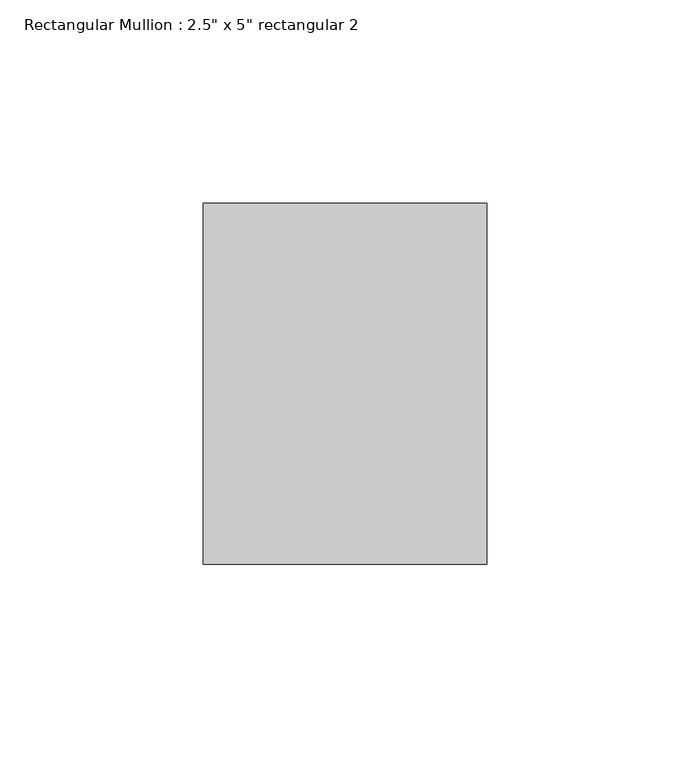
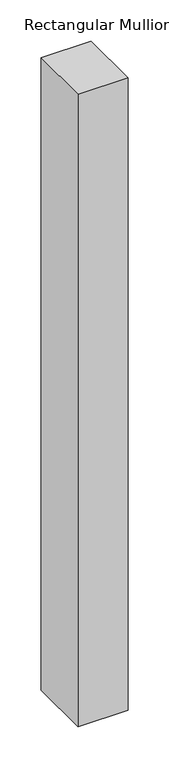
"""IFC4 building model written with IfcOpenShell, lengths in millimetres: member geometry."""

from ifc_helpers import new_model, si_unit, frame, origin, place, context, project, spatial, polyline, outline, extrude, source, transform, mapped, element, save


def member_a3112ac0(model_context):
    return source(origin(), model_context, "Body", "SweptSolid", [
        extrude(outline(polyline([(0.0, 44.45), (0.0, -44.45), (-69.85, -44.45), (-69.85, 44.45), (0.0, 44.45)])), frame((0.0, 0.0, -933.45), z_axis=(0.0, 0.0, 1.0), x_axis=(1.0, 0.0, 0.0)), (0.0, 0.0, 1.0), 933.45),
    ])


if __name__ == "__main__":
    model = new_model("IFC4")
    model_context = context("Model", 3, world=origin())
    ifc_project = project(units=[si_unit("LENGTHUNIT", "METRE", prefix="MILLI")], contexts=[model_context])
    site = spatial("IfcSite", under=ifc_project)
    building = spatial("IfcBuilding", under=site)
    placement = place(None, origin())
    member_shape = member_a3112ac0(model_context)
    element("IfcMember", 1, ObjectType="Rectangular Mullion : 2.5\" x 5\" rectangular 2", at=placement, inside=building, context=model_context, shape_type="MappedRepresentation", body=[
        mapped(member_shape, transform((0.0, 0.0, 0.0), x_axis=(1.0, 0.0, 0.0), y_axis=(0.0, 1.0, 0.0), z_axis=(0.0, 0.0, 1.0))),
    ])
    save(model, "model.ifc")
